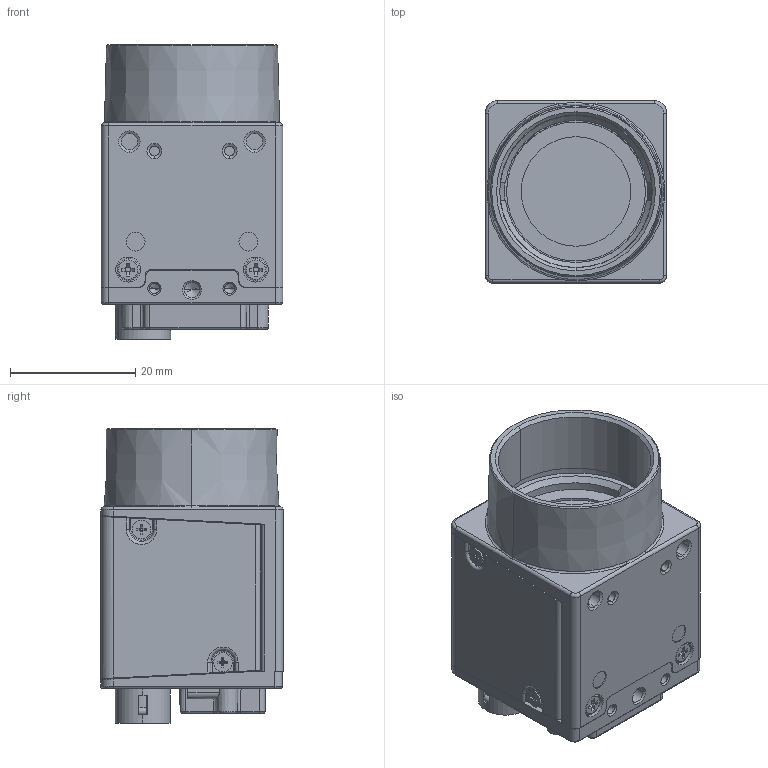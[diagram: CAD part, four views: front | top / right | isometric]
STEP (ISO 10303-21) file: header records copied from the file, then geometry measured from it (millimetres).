
FILE_DESCRIPTION((''),'2;1');
FILE_NAME('DH3-0694-6360_1','2023-11-24T16:42:24',('21511'),(''),'CREO PARAMETRIC BY PTC INC, 2020184','CREO PARAMETRIC BY PTC INC, 2020184','');
FILE_SCHEMA(('CONFIG_CONTROL_DESIGN','SHAPE_APPEARANCE_LAYERS_GROUPS'));
Products named in the file (1): DH3-0694-6360_1
Bounding box: 29 x 29.13 x 47.1 mm (x, y, z)
Volume: 24703.6 mm3; surface area: 12159 mm2
Topology: 1 solids, 11 shells, 1705 faces, 4698 edges, 3022 vertices
Faces by surface type: plane 903, cylinder 462, bspline 167, cone 106, torus 49, extrusion 13, sphere 5
Entity records: 77235 total; most frequent: CARTESIAN_POINT 16989, ORIENTED_EDGE 9374, DIRECTION 8279, PRESENTATION_STYLE_ASSIGNMENT 5133, STYLED_ITEM 4694, CURVE_STYLE 4693, EDGE_CURVE 4687, VECTOR 3161
